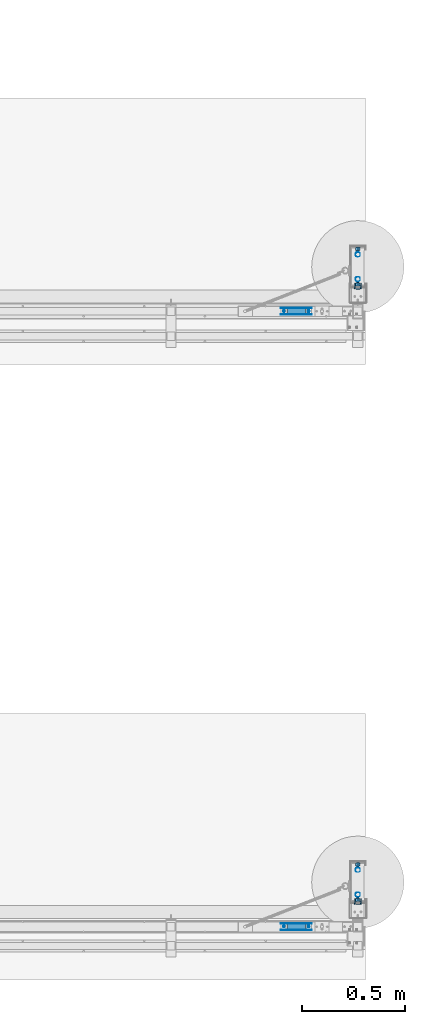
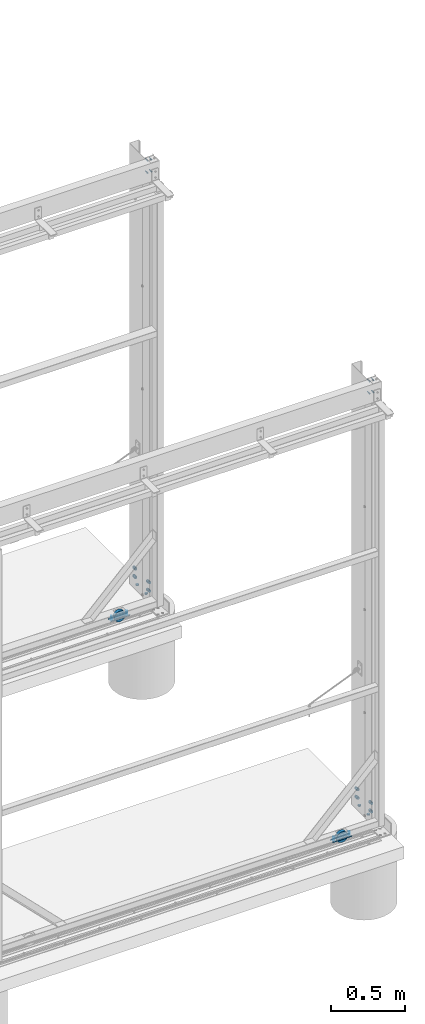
# One storey, part 22 of 91: 10 mechanical fasteners, 6 discrete accessories, 8 elements without a shape of their own.
"""IFC2X3 building model written with IfcOpenShell, lengths in millimetres."""

import ifcopenshell
import ifcopenshell.guid

model = None  # the IFC model being written
_history = None  # IfcOwnerHistory: only IFC2X3 demands one
_inside = {}  # id of a spatial element -> (the spatial element, [elements in it])
_under = {}  # id of a project, library or spatial element -> (it, [spatial elements below it])
_declared = {}  # id of a project -> (the project, [libraries it declares])
_typed = {}  # id of a type object -> (the type object, [elements of that type])
_made_of = {}  # id of a material, layer set ... -> (it, [elements and type objects made of it])


def new_model(schema):
    """Start an empty IFC model of exactly this schema.

    Asked for "IFC4X3", IfcOpenShell would pick the latest addendum, in which some entities
    have other attributes; the version numbers below select the first issue.
    IFC2X3 requires an IfcOwnerHistory on every rooted entity: one is made here for all.
    """
    global model, _history
    if schema == "IFC4X3":
        model = ifcopenshell.file(schema_version=(4, 3, 0, 0))
    else:
        model = ifcopenshell.file(schema=schema)
    _inside.clear()
    _under.clear()
    _declared.clear()
    _typed.clear()
    _made_of.clear()
    _history = None
    if model.schema == "IFC2X3":
        org = make("IfcOrganization", Name="unknown")
        user = make(
            "IfcPersonAndOrganization",
            ThePerson=make("IfcPerson", FamilyName="unknown"),
            TheOrganization=org,
        )
        app = make(
            "IfcApplication",
            ApplicationDeveloper=org,
            Version="unknown",
            ApplicationFullName="unknown",
            ApplicationIdentifier="unknown",
        )
        _history = make(
            "IfcOwnerHistory",
            OwningUser=user,
            OwningApplication=app,
            ChangeAction="ADDED",
            CreationDate=0,
        )
    return model


def make(cls, **values):
    """One entity of the class cls with the attributes given. An attribute that is None is left unset."""
    return model.create_entity(
        cls, **{name: value for name, value in values.items() if value is not None}
    )


def rooted(cls, **values):
    """An entity with a GlobalId (a new one), such as an element, a storey or a relation."""
    return make(cls, GlobalId=ifcopenshell.guid.new(), OwnerHistory=_history, **values)


def si_unit(unit_type, name, prefix=None):
    """IfcSIUnit, for example si_unit("LENGTHUNIT", "METRE", prefix="MILLI")."""
    return make("IfcSIUnit", UnitType=unit_type, Prefix=prefix, Name=name)


def assignment(units):
    """IfcUnitAssignment: the units of a project."""
    return None if units is None else make("IfcUnitAssignment", Units=units)


def point(xyz):
    """IfcCartesianPoint."""
    return None if xyz is None else make("IfcCartesianPoint", Coordinates=xyz)


def direction(xyz):
    """IfcDirection."""
    return None if xyz is None else make("IfcDirection", DirectionRatios=xyz)


def frame(location, z_axis=None, x_axis=None):
    """IfcAxis2Placement3D, a coordinate frame: its origin and axes. An axis left out is left unset."""
    return make(
        "IfcAxis2Placement3D",
        Location=point(location),
        Axis=direction(z_axis),
        RefDirection=direction(x_axis),
    )


def frame_2d(location, x_axis=None):
    """IfcAxis2Placement2D, a coordinate frame in the plane: its origin and x axis."""
    return make(
        "IfcAxis2Placement2D", Location=point(location), RefDirection=direction(x_axis)
    )


def origin_with_axes():
    """The frame at (0, 0, 0) with the z axis (0, 0, 1) and the x axis (1, 0, 0) written out."""
    return frame((0.0, 0.0, 0.0), z_axis=(0.0, 0.0, 1.0), x_axis=(1.0, 0.0, 0.0))


def origin_2d_with_axis():
    """The frame at (0, 0) in the plane with the x axis (1, 0) written out."""
    return frame_2d((0.0, 0.0), x_axis=(1.0, 0.0))


def place(relative_to, where):
    """IfcLocalPlacement: puts the frame where relative to a parent placement (None: the world)."""
    return make(
        "IfcLocalPlacement", PlacementRelTo=relative_to, RelativePlacement=where
    )


def context(
    kind, dimensions, precision=None, world=None, true_north=None, identifier=None
):
    """IfcGeometricRepresentationContext, for example the 3D "Model" context."""
    return make(
        "IfcGeometricRepresentationContext",
        ContextIdentifier=identifier,
        ContextType=kind,
        CoordinateSpaceDimension=dimensions,
        Precision=precision,
        WorldCoordinateSystem=world,
        TrueNorth=true_north,
    )


def subcontext(parent, identifier, kind, view, scale=None):
    """IfcGeometricRepresentationSubContext, for example "Body" below "Model"."""
    return make(
        "IfcGeometricRepresentationSubContext",
        ContextIdentifier=identifier,
        ContextType=kind,
        ParentContext=parent,
        TargetScale=scale,
        TargetView=view,
    )


def project(units=None, contexts=None):
    """IfcProject with its units and contexts."""
    return rooted(
        "IfcProject",
        Name="project",
        RepresentationContexts=contexts,
        UnitsInContext=assignment(units),
    )


def spatial(cls, under=None, at=None, **own):
    """A site, building, storey or space (cls), placed at a placement, below another one or the project."""
    s = rooted(cls, ObjectPlacement=at, **own)
    if under is not None:
        _under.setdefault(under.id(), (under, []))[1].append(s)
    return s


def polyline(points):
    """IfcPolyline through the points."""
    return make("IfcPolyline", Points=[point(p) for p in points])


def circle_curve(where, radius):
    """IfcCircle in the frame where."""
    return make("IfcCircle", Position=where, Radius=radius)


def parameter(value):
    """IfcParameterValue: where a trimmed curve begins or ends, as a parameter of its basis curve."""
    return model.create_entity("IfcParameterValue", value)


def trimmed(basis, trim1, trim2, sense, master):
    """IfcTrimmedCurve: the piece of a basis curve between two trims."""
    return make(
        "IfcTrimmedCurve",
        BasisCurve=basis,
        Trim1=trim1,
        Trim2=trim2,
        SenseAgreement=sense,
        MasterRepresentation=master,
    )


def segment(curve, same_sense, transition):
    """IfcCompositeCurveSegment."""
    return make(
        "IfcCompositeCurveSegment",
        Transition=transition,
        SameSense=same_sense,
        ParentCurve=curve,
    )


def composite_curve(segments, self_intersect=None):
    """IfcCompositeCurve: segments joined end to end."""
    return make("IfcCompositeCurve", Segments=segments, SelfIntersect=self_intersect)


def profile(cls, at=None, kind="AREA", **sizes):
    """A parametric profile (cls). Its sizes go by their IFC names, for example OverallWidth=200.0."""
    return make(cls, ProfileType=kind, Position=at, **sizes)


def circle(**sizes):
    """IfcCircleProfileDef."""
    return profile("IfcCircleProfileDef", **sizes)


def outline(outer, holes=None, kind="AREA"):
    """IfcArbitraryClosedProfileDef: a profile drawn as a closed curve; with holes, ...WithVoids."""
    if holes is None:
        return make("IfcArbitraryClosedProfileDef", ProfileType=kind, OuterCurve=outer)
    return make(
        "IfcArbitraryProfileDefWithVoids",
        ProfileType=kind,
        OuterCurve=outer,
        InnerCurves=holes,
    )


def extrude(swept, where, along, depth):
    """IfcExtrudedAreaSolid: the profile swept, set in the frame where, extruded along a direction by depth."""
    return make(
        "IfcExtrudedAreaSolid",
        SweptArea=swept,
        Position=where,
        ExtrudedDirection=direction(along),
        Depth=depth,
    )


def shape(context_of_items, identifier, shape_type, items):
    """IfcShapeRepresentation: the items that make up one representation, for example the "Body"."""
    return make(
        "IfcShapeRepresentation",
        ContextOfItems=context_of_items,
        RepresentationIdentifier=identifier,
        RepresentationType=shape_type,
        Items=items,
    )


def source(mapping_origin, context_of_items, identifier, shape_type, items):
    """IfcRepresentationMap: a shape defined once, which mapped items show again and again."""
    return make(
        "IfcRepresentationMap",
        MappingOrigin=mapping_origin,
        MappedRepresentation=shape(context_of_items, identifier, shape_type, items),
    )


def transform(
    local_origin,
    x_axis=None,
    y_axis=None,
    z_axis=None,
    scale=None,
    scale2=None,
    scale3=None,
    uniform=True,
):
    """IfcCartesianTransformationOperator3D, or its non-uniform kind. x_axis, y_axis, z_axis: its Axis1, 2, 3."""
    if uniform:
        return make(
            "IfcCartesianTransformationOperator3D",
            Axis1=direction(x_axis),
            Axis2=direction(y_axis),
            LocalOrigin=point(local_origin),
            Scale=scale,
            Axis3=direction(z_axis),
        )
    return make(
        "IfcCartesianTransformationOperator3DnonUniform",
        Axis1=direction(x_axis),
        Axis2=direction(y_axis),
        LocalOrigin=point(local_origin),
        Scale=scale,
        Axis3=direction(z_axis),
        Scale2=scale2,
        Scale3=scale3,
    )


def mapped(mapping_source, mapping_target):
    """IfcMappedItem: shows the shape of a source again, moved by a transform."""
    return make(
        "IfcMappedItem", MappingSource=mapping_source, MappingTarget=mapping_target
    )


def material(Name=None, Category=None):
    """IfcMaterial."""
    return make("IfcMaterial", Name=Name, Category=Category)


def made_of(thing, what):
    """Note that an element or type object is made of a material, layer set ...; save() writes the relation."""
    if what is not None:
        _made_of.setdefault(what.id(), (what, []))[1].append(thing)
    return thing


def type_object(cls, material=None, **own):
    """A type object (cls), such as IfcWallType, which elements share."""
    return made_of(rooted(cls, **own), material)


def element(
    cls,
    number,
    at=None,
    inside=None,
    cuts=None,
    type_object=None,
    material=None,
    context=None,
    identifier="Body",
    shape_type=None,
    held_by="IfcProductDefinitionShape",
    body=None,
    shapes=None,
    **own,
):
    """One element of the class cls, such as IfcWall. Its Tag is "e" and its number.

    at: its placement. inside: the storey or other place that contains it. cuts: it is an
    opening in that element (IfcRelVoidsElement). A single representation is given by context,
    identifier, shape_type and body (its items); several are given by shapes. held_by: the class
    of the entity that holds the representations. save() writes the other relations.
    """
    e = rooted(cls, Tag="e%d" % number, ObjectPlacement=at, **own)
    if body is not None:
        shapes = [shape(context, identifier, shape_type, body)]
    if shapes is not None:
        e.Representation = make(held_by, Representations=shapes)
    if inside is not None:
        _inside.setdefault(inside.id(), (inside, []))[1].append(e)
    if cuts is not None:
        rooted(
            "IfcRelVoidsElement", RelatingBuildingElement=cuts, RelatedOpeningElement=e
        )
    if type_object is not None:
        _typed.setdefault(type_object.id(), (type_object, []))[1].append(e)
    return made_of(e, material)


def aggregate(whole, parts):
    """IfcRelAggregates: a whole, such as a stair, and the parts it consists of."""
    return rooted("IfcRelAggregates", RelatingObject=whole, RelatedObjects=parts)


def save(model, path):
    """Write the relations noted so far, then the file.

    IfcRelAggregates (storeys below a building ...), IfcRelContainedInSpatialStructure (elements
    in a storey), IfcRelDefinesByType, IfcRelAssociatesMaterial and IfcRelDeclares: one each for
    every whole, place, type object, material and project.
    """
    for whole, parts in _under.values():
        aggregate(whole, parts)
    for where, things in _inside.values():
        rooted(
            "IfcRelContainedInSpatialStructure",
            RelatedElements=things,
            RelatingStructure=where,
        )
    for kind, things in _typed.values():
        rooted("IfcRelDefinesByType", RelatedObjects=things, RelatingType=kind)
    for what, things in _made_of.values():
        rooted("IfcRelAssociatesMaterial", RelatedObjects=things, RelatingMaterial=what)
    for by, libraries in _declared.values():
        rooted("IfcRelDeclares", RelatingContext=by, RelatedDefinitions=libraries)
    model.write(path)


model = new_model("IFC2X3")

# Units and contexts
model_context = context("Model", 3, precision=1e-05, world=origin_with_axes())
body_context = subcontext(model_context, "Body", "Model", "MODEL_VIEW")
ifc_project = project(units=[si_unit("LENGTHUNIT", "METRE", prefix="MILLI"), si_unit("AREAUNIT", "SQUARE_METRE"), si_unit("VOLUMEUNIT", "CUBIC_METRE"), si_unit("MASSUNIT", "GRAM", prefix="KILO"), si_unit("TIMEUNIT", "SECOND"), si_unit("PLANEANGLEUNIT", "RADIAN"), si_unit("SOLIDANGLEUNIT", "STERADIAN"), si_unit("THERMODYNAMICTEMPERATUREUNIT", "DEGREE_CELSIUS"), si_unit("LUMINOUSINTENSITYUNIT", "LUMEN")], contexts=[model_context])

# Site, building, storey
site_placement = place(None, origin_with_axes())
site = spatial("IfcSite", under=ifc_project, at=site_placement, Name="Undefined", CompositionType="ELEMENT")
building_placement = place(site_placement, origin_with_axes())
building = spatial("IfcBuilding", under=site, at=building_placement, Name="Undefined", CompositionType="ELEMENT")
storey_placement = place(building_placement, origin_with_axes())
storey = spatial("IfcBuildingStorey", under=building, at=storey_placement, Name="Undefined", CompositionType="ELEMENT", Elevation=0.0)

# Assembly, discrete accessories
assembly_1_placement = place(storey_placement, origin_with_axes())
assembly_1 = element("IfcElementAssembly", 1, at=assembly_1_placement, inside=storey, Name="PLATE", AssemblyPlace="NOTDEFINED", PredefinedType="RIGID_FRAME")
ifc_material_1 = material(Name="STEEL/250")
discrete_accessory_type_1 = type_object("IfcDiscreteAccessoryType", Name="PLATE")
discrete_accessory_1_placement = place(assembly_1_placement, frame((-108058.34, 87696.65, -19.0), z_axis=(0.0, -1.0, 0.0), x_axis=(0.0, 0.0, -1.0)))
discrete_accessory_1 = element("IfcDiscreteAccessory", 2, at=discrete_accessory_1_placement, type_object=discrete_accessory_type_1, material=ifc_material_1, Name="PLATE", ObjectType="PLT2*10", context=body_context, shape_type="SweptSolid", body=[
    extrude(outline(polyline([(0.0, 0.0), (10.0, 0.0), (10.0, 150.0), (0.0, 150.0), (0.0, 0.0)])), frame((0.0, 0.0, -1.0), z_axis=(0.0, 0.0, 1.0), x_axis=(1.0, 0.0, 0.0)), (0.0, 0.0, 1.0), 2.0),
])
discrete_accessory_2_placement = place(assembly_1_placement, frame((-108058.34, 87727.65, -19.0), z_axis=(0.0, -1.0, 0.0), x_axis=(0.0, 0.0, -1.0)))
discrete_accessory_2 = element("IfcDiscreteAccessory", 3, at=discrete_accessory_2_placement, type_object=discrete_accessory_type_1, material=ifc_material_1, Name="PLATE", ObjectType="PLT2*10", context=body_context, shape_type="SweptSolid", body=[
    extrude(outline(polyline([(0.0, 0.0), (10.0, 0.0), (10.0, 150.0), (0.0, 150.0), (0.0, 0.0)])), frame((0.0, 0.0, -1.0), z_axis=(0.0, 0.0, 1.0), x_axis=(1.0, 0.0, 0.0)), (0.0, 0.0, 1.0), 2.0),
])

assembly_2_placement = place(storey_placement, origin_with_axes())
assembly_2 = element("IfcElementAssembly", 4, at=assembly_2_placement, inside=storey, Name="PLATE", AssemblyPlace="NOTDEFINED", PredefinedType="RIGID_FRAME")
discrete_accessory_3_placement = place(assembly_2_placement, frame((-108058.34, 84696.65, -19.0), z_axis=(0.0, -1.0, 0.0), x_axis=(0.0, 0.0, -1.0)))
discrete_accessory_3 = element("IfcDiscreteAccessory", 5, at=discrete_accessory_3_placement, type_object=discrete_accessory_type_1, material=ifc_material_1, Name="PLATE", ObjectType="PLT2*10", context=body_context, shape_type="SweptSolid", body=[
    extrude(outline(polyline([(0.0, 0.0), (10.0, 0.0), (10.0, 150.0), (0.0, 150.0), (0.0, 0.0)])), frame((0.0, 0.0, -1.0), z_axis=(0.0, 0.0, 1.0), x_axis=(1.0, 0.0, 0.0)), (0.0, 0.0, 1.0), 2.0),
])
discrete_accessory_4_placement = place(assembly_2_placement, frame((-108058.34, 84727.65, -19.0), z_axis=(0.0, -1.0, 0.0), x_axis=(0.0, 0.0, -1.0)))
discrete_accessory_4 = element("IfcDiscreteAccessory", 6, at=discrete_accessory_4_placement, type_object=discrete_accessory_type_1, material=ifc_material_1, Name="PLATE", ObjectType="PLT2*10", context=body_context, shape_type="SweptSolid", body=[
    extrude(outline(polyline([(0.0, 0.0), (10.0, 0.0), (10.0, 150.0), (0.0, 150.0), (0.0, 0.0)])), frame((0.0, 0.0, -1.0), z_axis=(0.0, 0.0, 1.0), x_axis=(1.0, 0.0, 0.0)), (0.0, 0.0, 1.0), 2.0),
])

# Mechanical fastener
ifc_material_2 = material(Name="TEK_11TPIM")
discrete_accessory_type_2 = type_object("IfcDiscreteAccessoryType", Name="Bolt assembly")
shared_shape_1 = source(origin_with_axes(), body_context, "Body", "SweptSolid", [
    extrude(circle(Radius=3.0, at=origin_2d_with_axis()), frame((0.0, 0.0, 0.0), z_axis=(0.0, 1.0, 0.0), x_axis=(1.0, 0.0, 0.0)), (0.0, 0.0, 1.0), 2.1),
    extrude(outline(polyline([(4.61880215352, 0.0), (2.30940107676, 4.00000000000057), (-2.30940107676, 4.00000000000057), (-4.61880215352, 0.0), (-2.30940107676, -4.00000000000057), (2.30940107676, -4.00000000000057), (4.61880215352, 0.0)])), frame((0.0, -5.10000000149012, 0.0), z_axis=(0.0, 1.0, 0.0), x_axis=(1.0, 0.0, 0.0)), (0.0, 0.0, 1.0), 5.0),
    extrude(circle(Radius=3.0, at=origin_2d_with_axis()), frame((0.0, -0.100000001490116, 0.0), z_axis=(0.0, 1.0, 0.0), x_axis=(1.0, 0.0, 0.0)), (0.0, 0.0, 1.0), 25.0),
    extrude(circle(Radius=3.0, at=origin_2d_with_axis()), frame((0.0, -0.100000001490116, 0.0), z_axis=(0.0, 1.0, 0.0), x_axis=(1.0, 0.0, 0.0)), (0.0, 0.0, 1.0), 0.1),
    extrude(circle(Radius=3.0, at=origin_2d_with_axis()), frame((0.0, 2.00000000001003, 0.0), z_axis=(0.0, 1.0, 0.0), x_axis=(1.0, 0.0, 0.0)), (0.0, 0.0, 1.0), 0.1),
    extrude(outline(polyline([(3.46410161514, 0.0), (1.73205080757, 3.00000000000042), (-1.73205080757, 3.00000000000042), (-3.46410161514, 0.0), (-1.73205080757, -3.00000000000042), (1.73205080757, -3.00000000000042), (3.46410161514, 0.0)])), frame((0.0, 2.10000000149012, 0.0), z_axis=(0.0, 1.0, 0.0), x_axis=(1.0, 0.0, 0.0)), (0.0, 0.0, 1.0), 0.1),
])
mechanical_fastener_1_placement = place(assembly_1_placement, frame((-107923.34, 87712.15, -19.0), z_axis=(0.0, 1.0, 0.0), x_axis=(-1.0, 0.0, 0.0)))
mechanical_fastener_1 = element("IfcMechanicalFastener", 7, at=mechanical_fastener_1_placement, type_object=discrete_accessory_type_2, material=ifc_material_2, Name="Bolt assembly", NominalDiameter=6.0, NominalLength=25.0, context=body_context, shape_type="MappedRepresentation", body=[
    mapped(shared_shape_1, transform((0.0, 0.0, 0.0))),
    mapped(shared_shape_1, transform((120.0, 0.0, 0.0))),
])

mechanical_fastener_2_placement = place(assembly_2_placement, frame((-107923.34, 84712.15, -19.0), z_axis=(0.0, 1.0, 0.0), x_axis=(-1.0, 0.0, 0.0)))
mechanical_fastener_2 = element("IfcMechanicalFastener", 8, at=mechanical_fastener_2_placement, type_object=discrete_accessory_type_2, material=ifc_material_2, Name="Bolt assembly", NominalDiameter=6.0, NominalLength=25.0, context=body_context, shape_type="MappedRepresentation", body=[
    mapped(shared_shape_1, transform((0.0, 0.0, 0.0))),
    mapped(shared_shape_1, transform((120.0, 0.0, 0.0))),
])

# Assembly, mechanical fastener
assembly_3_placement = place(storey_placement, origin_with_axes())
assembly_3 = element("IfcElementAssembly", 9, at=assembly_3_placement, inside=storey, Name="BASEPLATE", AssemblyPlace="NOTDEFINED", PredefinedType="RIGID_FRAME")
ifc_material_3 = material(Name="8.8S")
shared_shape_2 = source(origin_with_axes(), body_context, "Body", "SweptSolid", [
    extrude(circle(Radius=10.0, at=origin_2d_with_axis()), frame((0.0, -5.0, 0.0), z_axis=(0.0, 1.0, 0.0), x_axis=(1.0, 0.0, 0.0)), (0.0, 0.0, 1.0), 6.1),
])
mechanical_fastener_3_placement = place(assembly_3_placement, frame((-107683.34, 87868.65, -31.0), z_axis=(-1.0, 0.0, 0.0), x_axis=(0.0, 1.0, 0.0)))
mechanical_fastener_3 = element("IfcMechanicalFastener", 10, at=mechanical_fastener_3_placement, type_object=discrete_accessory_type_2, material=ifc_material_3, Name="Bolt assembly", NominalDiameter=20.0, NominalLength=16.0, context=body_context, shape_type="MappedRepresentation", body=[
    mapped(shared_shape_2, transform((0.0, 0.0, 0.0))),
    mapped(shared_shape_2, transform((120.0, 0.0, 0.0))),
])
aggregate(assembly_3, [mechanical_fastener_3])

assembly_4_placement = place(storey_placement, origin_with_axes())
assembly_4 = element("IfcElementAssembly", 11, at=assembly_4_placement, inside=storey, Name="BASEPLATE", AssemblyPlace="NOTDEFINED", PredefinedType="RIGID_FRAME")
mechanical_fastener_4_placement = place(assembly_4_placement, frame((-107683.34, 84868.65, -31.0), z_axis=(-1.0, 0.0, 0.0), x_axis=(0.0, 1.0, 0.0)))
mechanical_fastener_4 = element("IfcMechanicalFastener", 12, at=mechanical_fastener_4_placement, type_object=discrete_accessory_type_2, material=ifc_material_3, Name="Bolt assembly", NominalDiameter=20.0, NominalLength=16.0, context=body_context, shape_type="MappedRepresentation", body=[
    mapped(shared_shape_2, transform((0.0, 0.0, 0.0))),
    mapped(shared_shape_2, transform((120.0, 0.0, 0.0))),
])
aggregate(assembly_4, [mechanical_fastener_4])

assembly_5_placement = place(storey_placement, origin_with_axes())
assembly_5 = element("IfcElementAssembly", 13, at=assembly_5_placement, inside=storey, Name="FASCIA BRACKET", AssemblyPlace="NOTDEFINED", PredefinedType="RIGID_FRAME")
ifc_material_4 = material(Name="TEK_16TPIM")
shared_shape_3 = source(origin_with_axes(), body_context, "Body", "SweptSolid", [
    extrude(circle(Radius=3.5, at=origin_2d_with_axis()), frame((0.0, -1.60000000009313, 0.0), z_axis=(0.0, 1.0, 0.0), x_axis=(1.0, 0.0, 0.0)), (0.0, 0.0, 1.0), 1.7),
    extrude(outline(polyline([(4.04145188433, 0.0), (2.020725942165, 3.5000000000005), (-2.020725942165, 3.5000000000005), (-4.04145188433, 0.0), (-2.020725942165, -3.5000000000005), (2.020725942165, -3.5000000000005), (4.04145188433, 0.0)])), frame((0.0, -6.70000000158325, 0.0), z_axis=(0.0, 1.0, 0.0), x_axis=(1.0, 0.0, 0.0)), (0.0, 0.0, 1.0), 5.0),
    extrude(circle(Radius=2.5, at=origin_2d_with_axis()), frame((0.0, -1.70000000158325, 0.0), z_axis=(0.0, 1.0, 0.0), x_axis=(1.0, 0.0, 0.0)), (0.0, 0.0, 1.0), 25.0),
    extrude(circle(Radius=2.5, at=origin_2d_with_axis()), frame((0.0, -1.70000000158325, 0.0), z_axis=(0.0, 1.0, 0.0), x_axis=(1.0, 0.0, 0.0)), (0.0, 0.0, 1.0), 0.1),
    extrude(circle(Radius=2.5, at=origin_2d_with_axis()), frame((0.0, 0.0, 0.0), z_axis=(0.0, 1.0, 0.0), x_axis=(1.0, 0.0, 0.0)), (0.0, 0.0, 1.0), 0.1),
    extrude(outline(polyline([(2.88675134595, 0.0), (1.443375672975, 2.50000000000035), (-1.443375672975, 2.50000000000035), (-2.88675134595, 0.0), (-1.443375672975, -2.50000000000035), (1.443375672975, -2.50000000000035), (2.88675134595, 0.0)])), frame((0.0, 0.1, 0.0), z_axis=(0.0, 1.0, 0.0), x_axis=(1.0, 0.0, 0.0)), (0.0, 0.0, 1.0), 0.1),
])
mechanical_fastener_5_placement = place(assembly_5_placement, frame((-107683.339999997, 87827.1514572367, 3570.01721743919), z_axis=(1.0, 0.0, 0.0), x_axis=(0.0, 0.0, -1.0)))
mechanical_fastener_5 = element("IfcMechanicalFastener", 14, at=mechanical_fastener_5_placement, type_object=discrete_accessory_type_2, material=ifc_material_4, Name="Bolt assembly", NominalDiameter=5.0, NominalLength=25.0, context=body_context, shape_type="MappedRepresentation", body=[
    mapped(shared_shape_3, transform((0.0, 0.0, -15.0))),
    mapped(shared_shape_3, transform((100.0, 0.0, -15.0))),
    mapped(shared_shape_3, transform((0.0, 0.0, 15.0))),
    mapped(shared_shape_3, transform((100.0, 0.0, 15.0))),
])
aggregate(assembly_5, [mechanical_fastener_5])

assembly_6_placement = place(storey_placement, origin_with_axes())
assembly_6 = element("IfcElementAssembly", 15, at=assembly_6_placement, inside=storey, Name="FASCIA BRACKET", AssemblyPlace="NOTDEFINED", PredefinedType="RIGID_FRAME")
mechanical_fastener_6_placement = place(assembly_6_placement, frame((-107683.339999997, 84827.1514572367, 3570.01721743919), z_axis=(1.0, 0.0, 0.0), x_axis=(0.0, 0.0, -1.0)))
mechanical_fastener_6 = element("IfcMechanicalFastener", 16, at=mechanical_fastener_6_placement, type_object=discrete_accessory_type_2, material=ifc_material_4, Name="Bolt assembly", NominalDiameter=5.0, NominalLength=25.0, context=body_context, shape_type="MappedRepresentation", body=[
    mapped(shared_shape_3, transform((0.0, 0.0, -15.0))),
    mapped(shared_shape_3, transform((100.0, 0.0, -15.0))),
    mapped(shared_shape_3, transform((0.0, 0.0, 15.0))),
    mapped(shared_shape_3, transform((100.0, 0.0, 15.0))),
])
aggregate(assembly_6, [mechanical_fastener_6])

# Assembly, mechanical fasteners
assembly_7_placement = place(storey_placement, origin_with_axes())
assembly_7 = element("IfcElementAssembly", 17, at=assembly_7_placement, inside=storey, Name="COLUMN", AssemblyPlace="NOTDEFINED", PredefinedType="RIGID_FRAME")
shared_shape_4 = source(origin_with_axes(), body_context, "Body", "SweptSolid", [
    extrude(circle(Radius=7.0, at=origin_2d_with_axis()), frame((0.0, 4.79999999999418, 0.0), z_axis=(0.0, 1.0, 0.0), x_axis=(1.0, 0.0, 0.0)), (0.0, 0.0, 1.0), 6.1),
    extrude(outline(composite_curve([segment(polyline([(-4.0, 9.0), (4.0, 9.0)]), True, "CONTINUOUS"), segment(trimmed(circle_curve(frame_2d((4.0, 2.0), x_axis=(0.0, 1.0)), 7.0), [parameter(0.0)], [parameter(4.71238898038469)], False, "PARAMETER"), True, "CONTINUOUS"), segment(polyline([(11.0, 2.0), (11.0, -2.0)]), True, "CONTINUOUS"), segment(trimmed(circle_curve(frame_2d((4.0, -2.0), x_axis=(1.0, 0.0)), 7.0), [parameter(0.0)], [parameter(4.71238898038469)], False, "PARAMETER"), True, "CONTINUOUS"), segment(polyline([(4.0, -9.0), (-4.0, -9.0)]), True, "CONTINUOUS"), segment(trimmed(circle_curve(frame_2d((-4.0, -2.0), x_axis=(0.0, -1.0)), 7.0), [parameter(0.0)], [parameter(4.71238898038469)], False, "PARAMETER"), True, "CONTINUOUS"), segment(polyline([(-11.0, -2.0), (-11.0, 2.0)]), True, "CONTINUOUS"), segment(trimmed(circle_curve(frame_2d((-4.0, 2.0), x_axis=(-1.0, 0.0)), 7.0), [parameter(0.0)], [parameter(4.71238898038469)], False, "PARAMETER"), True, "DISCONTINUOUS")], self_intersect=False)), frame((0.0, 3.6, 0.0), z_axis=(0.0, 1.0, 0.0), x_axis=(1.0, 0.0, 0.0)), (0.0, 0.0, 1.0), 1.9),
    extrude(outline(polyline([(10.96965511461, 0.0), (5.484827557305, 9.50000000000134), (-5.484827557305, 9.50000000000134), (-10.96965511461, 0.0), (-5.484827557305, -9.50000000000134), (5.484827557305, -9.50000000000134), (10.96965511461, 0.0)])), frame((0.0, -4.5, 0.0), z_axis=(0.0, 1.0, 0.0), x_axis=(1.0, 0.0, 0.0)), (0.0, 0.0, 1.0), 8.0),
    extrude(circle(Radius=6.0, at=origin_2d_with_axis()), frame((0.0, 3.5, 0.0), z_axis=(0.0, 1.0, 0.0), x_axis=(1.0, 0.0, 0.0)), (0.0, 0.0, 1.0), 30.0),
    extrude(circle(Radius=12.0, at=origin_2d_with_axis()), frame((0.0, 10.9000000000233, 0.0), z_axis=(0.0, 1.0, 0.0), x_axis=(1.0, 0.0, 0.0)), (0.0, 0.0, 1.0), 3.1),
    extrude(outline(polyline([(12.12435565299, 0.0), (6.062177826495, 10.5000000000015), (-6.062177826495, 10.5000000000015), (-12.12435565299, 0.0), (-6.062177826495, -10.5000000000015), (6.062177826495, -10.5000000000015), (12.12435565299, 0.0)])), frame((0.0, 13.9999999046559, 0.0), z_axis=(0.0, 1.0, 0.0), x_axis=(1.0, 0.0, 0.0)), (0.0, 0.0, 1.0), 12.0),
])
mechanical_fastener_7_placement = place(assembly_7_placement, frame((-107683.34, 88033.65, 18.0), z_axis=(1.0, 0.0, 0.0), x_axis=(0.0, 0.0, 1.0)))
mechanical_fastener_7 = element("IfcMechanicalFastener", 18, at=mechanical_fastener_7_placement, type_object=discrete_accessory_type_2, material=ifc_material_3, Name="Bolt assembly", NominalDiameter=12.0, NominalLength=30.0, context=body_context, shape_type="MappedRepresentation", body=[
    mapped(shared_shape_4, transform((0.0, 0.0, 0.0))),
    mapped(shared_shape_4, transform((70.0, 0.0, 0.0))),
])
shared_shape_5 = source(origin_with_axes(), body_context, "Body", "SweptSolid", [
    extrude(circle(Radius=7.0, at=origin_2d_with_axis()), frame((0.0, 4.79999999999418, 0.0), z_axis=(0.0, 1.0, 0.0), x_axis=(1.0, 0.0, 0.0)), (0.0, 0.0, 1.0), 6.1),
    extrude(outline(composite_curve([segment(polyline([(-4.0, 9.0), (4.0, 9.0)]), True, "CONTINUOUS"), segment(trimmed(circle_curve(frame_2d((4.0, 2.0), x_axis=(0.0, 1.0)), 7.0), [parameter(0.0)], [parameter(4.71238898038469)], False, "PARAMETER"), True, "CONTINUOUS"), segment(polyline([(11.0, 2.0), (11.0, -2.0)]), True, "CONTINUOUS"), segment(trimmed(circle_curve(frame_2d((4.0, -2.0), x_axis=(1.0, 0.0)), 7.0), [parameter(0.0)], [parameter(4.71238898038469)], False, "PARAMETER"), True, "CONTINUOUS"), segment(polyline([(4.0, -9.0), (-4.0, -9.0)]), True, "CONTINUOUS"), segment(trimmed(circle_curve(frame_2d((-4.0, -2.0), x_axis=(0.0, -1.0)), 7.0), [parameter(0.0)], [parameter(4.71238898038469)], False, "PARAMETER"), True, "CONTINUOUS"), segment(polyline([(-11.0, -2.0), (-11.0, 2.0)]), True, "CONTINUOUS"), segment(trimmed(circle_curve(frame_2d((-4.0, 2.0), x_axis=(-1.0, 0.0)), 7.0), [parameter(0.0)], [parameter(4.71238898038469)], False, "PARAMETER"), True, "DISCONTINUOUS")], self_intersect=False)), frame((0.0, 3.6, 0.0), z_axis=(0.0, 1.0, 0.0), x_axis=(1.0, 0.0, 0.0)), (0.0, 0.0, 1.0), 1.9),
    extrude(outline(polyline([(10.96965511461, 0.0), (5.484827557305, 9.50000000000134), (-5.484827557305, 9.50000000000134), (-10.96965511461, 0.0), (-5.484827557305, -9.50000000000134), (5.484827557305, -9.50000000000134), (10.96965511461, 0.0)])), frame((0.0, -4.5, 0.0), z_axis=(0.0, 1.0, 0.0), x_axis=(1.0, 0.0, 0.0)), (0.0, 0.0, 1.0), 8.0),
    extrude(circle(Radius=6.0, at=origin_2d_with_axis()), frame((0.0, 3.5, 0.0), z_axis=(0.0, 1.0, 0.0), x_axis=(1.0, 0.0, 0.0)), (0.0, 0.0, 1.0), 30.0),
    extrude(circle(Radius=12.0, at=origin_2d_with_axis()), frame((0.0, 10.9000000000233, 0.0), z_axis=(0.0, 1.0, 0.0), x_axis=(1.0, 0.0, 0.0)), (0.0, 0.0, 1.0), 3.1),
    extrude(outline(polyline([(12.12435565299, 0.0), (6.062177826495, 10.5000000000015), (-6.062177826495, 10.5000000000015), (-12.12435565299, 0.0), (-6.062177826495, -10.5000000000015), (6.062177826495, -10.5000000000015), (12.12435565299, 0.0)])), frame((0.0, 13.9999999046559, 0.0), z_axis=(0.0, 1.0, 0.0), x_axis=(1.0, 0.0, 0.0)), (0.0, 0.0, 1.0), 12.0),
])
mechanical_fastener_8_placement = place(assembly_7_placement, frame((-107683.34, 87823.65, 18.0), z_axis=(-1.0, 0.0, 0.0), x_axis=(0.0, 0.0, 1.0)))
mechanical_fastener_8 = element("IfcMechanicalFastener", 19, at=mechanical_fastener_8_placement, type_object=discrete_accessory_type_2, material=ifc_material_3, Name="Bolt assembly", NominalDiameter=12.0, NominalLength=30.0, context=body_context, shape_type="MappedRepresentation", body=[
    mapped(shared_shape_5, transform((0.0, 0.0, 0.0))),
    mapped(shared_shape_5, transform((70.0, 0.0, 0.0))),
])
aggregate(assembly_7, [mechanical_fastener_7, mechanical_fastener_8])

# Discrete accessory
discrete_accessory_type_3 = type_object("IfcDiscreteAccessoryType", Name="DOOR ROLLER")
discrete_accessory_5_placement = place(assembly_1_placement, frame((-107983.34, 87724.6509765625, -10.0), z_axis=(1.0, 0.0, 0.0), x_axis=(0.0, -1.0, 0.0)))
discrete_accessory_5 = element("IfcDiscreteAccessory", 20, at=discrete_accessory_5_placement, type_object=discrete_accessory_type_3, material=ifc_material_1, Name="DOOR ROLLER", ObjectType="D88", context=body_context, shape_type="SweptSolid", body=[
    extrude(circle(Radius=44.0, at=origin_2d_with_axis()), frame((25.0, 0.0, 0.0), z_axis=(-1.0, 0.0, 0.0), x_axis=(0.0, -1.0, 0.0)), (0.0, 0.0, 1.0), 25.0),
])

aggregate(assembly_1, [mechanical_fastener_1, discrete_accessory_1, discrete_accessory_2, discrete_accessory_5])

discrete_accessory_6_placement = place(assembly_2_placement, frame((-107983.34, 84724.6509765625, -10.0), z_axis=(1.0, 0.0, 0.0), x_axis=(0.0, -1.0, 0.0)))
discrete_accessory_6 = element("IfcDiscreteAccessory", 21, at=discrete_accessory_6_placement, type_object=discrete_accessory_type_3, material=ifc_material_1, Name="DOOR ROLLER", ObjectType="D88", context=body_context, shape_type="SweptSolid", body=[
    extrude(circle(Radius=44.0, at=origin_2d_with_axis()), frame((25.0, 0.0, 0.0), z_axis=(-1.0, 0.0, 0.0), x_axis=(0.0, -1.0, 0.0)), (0.0, 0.0, 1.0), 25.0),
])

aggregate(assembly_2, [mechanical_fastener_2, discrete_accessory_3, discrete_accessory_4, discrete_accessory_6])

# Assembly, mechanical fasteners
assembly_8_placement = place(storey_placement, origin_with_axes())
assembly_8 = element("IfcElementAssembly", 22, at=assembly_8_placement, inside=storey, Name="COLUMN", AssemblyPlace="NOTDEFINED", PredefinedType="RIGID_FRAME")
shared_shape_6 = source(origin_with_axes(), body_context, "Body", "SweptSolid", [
    extrude(circle(Radius=7.0, at=origin_2d_with_axis()), frame((0.0, 4.79999999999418, 0.0), z_axis=(0.0, 1.0, 0.0), x_axis=(1.0, 0.0, 0.0)), (0.0, 0.0, 1.0), 6.1),
    extrude(outline(composite_curve([segment(polyline([(-4.0, 9.0), (4.0, 9.0)]), True, "CONTINUOUS"), segment(trimmed(circle_curve(frame_2d((4.0, 2.0), x_axis=(0.0, 1.0)), 7.0), [parameter(0.0)], [parameter(4.71238898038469)], False, "PARAMETER"), True, "CONTINUOUS"), segment(polyline([(11.0, 2.0), (11.0, -2.0)]), True, "CONTINUOUS"), segment(trimmed(circle_curve(frame_2d((4.0, -2.0), x_axis=(1.0, 0.0)), 7.0), [parameter(0.0)], [parameter(4.71238898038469)], False, "PARAMETER"), True, "CONTINUOUS"), segment(polyline([(4.0, -9.0), (-4.0, -9.0)]), True, "CONTINUOUS"), segment(trimmed(circle_curve(frame_2d((-4.0, -2.0), x_axis=(0.0, -1.0)), 7.0), [parameter(0.0)], [parameter(4.71238898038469)], False, "PARAMETER"), True, "CONTINUOUS"), segment(polyline([(-11.0, -2.0), (-11.0, 2.0)]), True, "CONTINUOUS"), segment(trimmed(circle_curve(frame_2d((-4.0, 2.0), x_axis=(-1.0, 0.0)), 7.0), [parameter(0.0)], [parameter(4.71238898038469)], False, "PARAMETER"), True, "DISCONTINUOUS")], self_intersect=False)), frame((0.0, 3.6, 0.0), z_axis=(0.0, 1.0, 0.0), x_axis=(1.0, 0.0, 0.0)), (0.0, 0.0, 1.0), 1.9),
    extrude(outline(polyline([(10.96965511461, 0.0), (5.484827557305, 9.50000000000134), (-5.484827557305, 9.50000000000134), (-10.96965511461, 0.0), (-5.484827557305, -9.50000000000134), (5.484827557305, -9.50000000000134), (10.96965511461, 0.0)])), frame((0.0, -4.5, 0.0), z_axis=(0.0, 1.0, 0.0), x_axis=(1.0, 0.0, 0.0)), (0.0, 0.0, 1.0), 8.0),
    extrude(circle(Radius=6.0, at=origin_2d_with_axis()), frame((0.0, 3.5, 0.0), z_axis=(0.0, 1.0, 0.0), x_axis=(1.0, 0.0, 0.0)), (0.0, 0.0, 1.0), 30.0),
    extrude(circle(Radius=12.0, at=origin_2d_with_axis()), frame((0.0, 10.9000000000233, 0.0), z_axis=(0.0, 1.0, 0.0), x_axis=(1.0, 0.0, 0.0)), (0.0, 0.0, 1.0), 3.1),
    extrude(outline(polyline([(12.12435565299, 0.0), (6.062177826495, 10.5000000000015), (-6.062177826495, 10.5000000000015), (-12.12435565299, 0.0), (-6.062177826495, -10.5000000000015), (6.062177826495, -10.5000000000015), (12.12435565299, 0.0)])), frame((0.0, 13.9999999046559, 0.0), z_axis=(0.0, 1.0, 0.0), x_axis=(1.0, 0.0, 0.0)), (0.0, 0.0, 1.0), 12.0),
])
mechanical_fastener_9_placement = place(assembly_8_placement, frame((-107683.34, 85033.65, 18.0), z_axis=(1.0, 0.0, 0.0), x_axis=(0.0, 0.0, 1.0)))
mechanical_fastener_9 = element("IfcMechanicalFastener", 23, at=mechanical_fastener_9_placement, type_object=discrete_accessory_type_2, material=ifc_material_3, Name="Bolt assembly", NominalDiameter=12.0, NominalLength=30.0, context=body_context, shape_type="MappedRepresentation", body=[
    mapped(shared_shape_6, transform((0.0, 0.0, 0.0))),
    mapped(shared_shape_6, transform((70.0, 0.0, 0.0))),
])
shared_shape_7 = source(origin_with_axes(), body_context, "Body", "SweptSolid", [
    extrude(circle(Radius=7.0, at=origin_2d_with_axis()), frame((0.0, 4.79999999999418, 0.0), z_axis=(0.0, 1.0, 0.0), x_axis=(1.0, 0.0, 0.0)), (0.0, 0.0, 1.0), 6.1),
    extrude(outline(composite_curve([segment(polyline([(-4.0, 9.0), (4.0, 9.0)]), True, "CONTINUOUS"), segment(trimmed(circle_curve(frame_2d((4.0, 2.0), x_axis=(0.0, 1.0)), 7.0), [parameter(0.0)], [parameter(4.71238898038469)], False, "PARAMETER"), True, "CONTINUOUS"), segment(polyline([(11.0, 2.0), (11.0, -2.0)]), True, "CONTINUOUS"), segment(trimmed(circle_curve(frame_2d((4.0, -2.0), x_axis=(1.0, 0.0)), 7.0), [parameter(0.0)], [parameter(4.71238898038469)], False, "PARAMETER"), True, "CONTINUOUS"), segment(polyline([(4.0, -9.0), (-4.0, -9.0)]), True, "CONTINUOUS"), segment(trimmed(circle_curve(frame_2d((-4.0, -2.0), x_axis=(0.0, -1.0)), 7.0), [parameter(0.0)], [parameter(4.71238898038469)], False, "PARAMETER"), True, "CONTINUOUS"), segment(polyline([(-11.0, -2.0), (-11.0, 2.0)]), True, "CONTINUOUS"), segment(trimmed(circle_curve(frame_2d((-4.0, 2.0), x_axis=(-1.0, 0.0)), 7.0), [parameter(0.0)], [parameter(4.71238898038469)], False, "PARAMETER"), True, "DISCONTINUOUS")], self_intersect=False)), frame((0.0, 3.6, 0.0), z_axis=(0.0, 1.0, 0.0), x_axis=(1.0, 0.0, 0.0)), (0.0, 0.0, 1.0), 1.9),
    extrude(outline(polyline([(10.96965511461, 0.0), (5.484827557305, 9.50000000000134), (-5.484827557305, 9.50000000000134), (-10.96965511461, 0.0), (-5.484827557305, -9.50000000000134), (5.484827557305, -9.50000000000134), (10.96965511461, 0.0)])), frame((0.0, -4.5, 0.0), z_axis=(0.0, 1.0, 0.0), x_axis=(1.0, 0.0, 0.0)), (0.0, 0.0, 1.0), 8.0),
    extrude(circle(Radius=6.0, at=origin_2d_with_axis()), frame((0.0, 3.5, 0.0), z_axis=(0.0, 1.0, 0.0), x_axis=(1.0, 0.0, 0.0)), (0.0, 0.0, 1.0), 30.0),
    extrude(circle(Radius=12.0, at=origin_2d_with_axis()), frame((0.0, 10.9000000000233, 0.0), z_axis=(0.0, 1.0, 0.0), x_axis=(1.0, 0.0, 0.0)), (0.0, 0.0, 1.0), 3.1),
    extrude(outline(polyline([(12.12435565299, 0.0), (6.062177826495, 10.5000000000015), (-6.062177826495, 10.5000000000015), (-12.12435565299, 0.0), (-6.062177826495, -10.5000000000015), (6.062177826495, -10.5000000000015), (12.12435565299, 0.0)])), frame((0.0, 13.9999999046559, 0.0), z_axis=(0.0, 1.0, 0.0), x_axis=(1.0, 0.0, 0.0)), (0.0, 0.0, 1.0), 12.0),
])
mechanical_fastener_10_placement = place(assembly_8_placement, frame((-107683.34, 84823.65, 18.0), z_axis=(-1.0, 0.0, 0.0), x_axis=(0.0, 0.0, 1.0)))
mechanical_fastener_10 = element("IfcMechanicalFastener", 24, at=mechanical_fastener_10_placement, type_object=discrete_accessory_type_2, material=ifc_material_3, Name="Bolt assembly", NominalDiameter=12.0, NominalLength=30.0, context=body_context, shape_type="MappedRepresentation", body=[
    mapped(shared_shape_7, transform((0.0, 0.0, 0.0))),
    mapped(shared_shape_7, transform((70.0, 0.0, 0.0))),
])
aggregate(assembly_8, [mechanical_fastener_9, mechanical_fastener_10])

save(model, "model.ifc")
